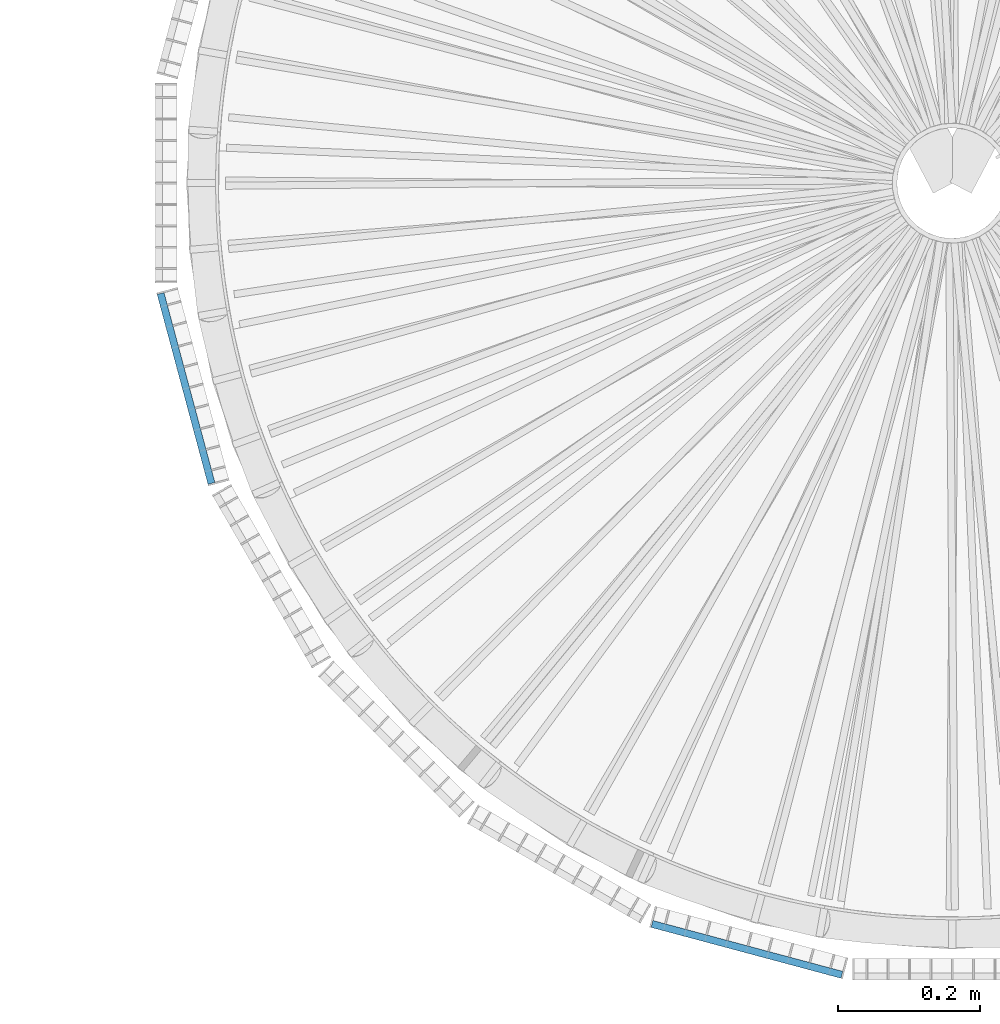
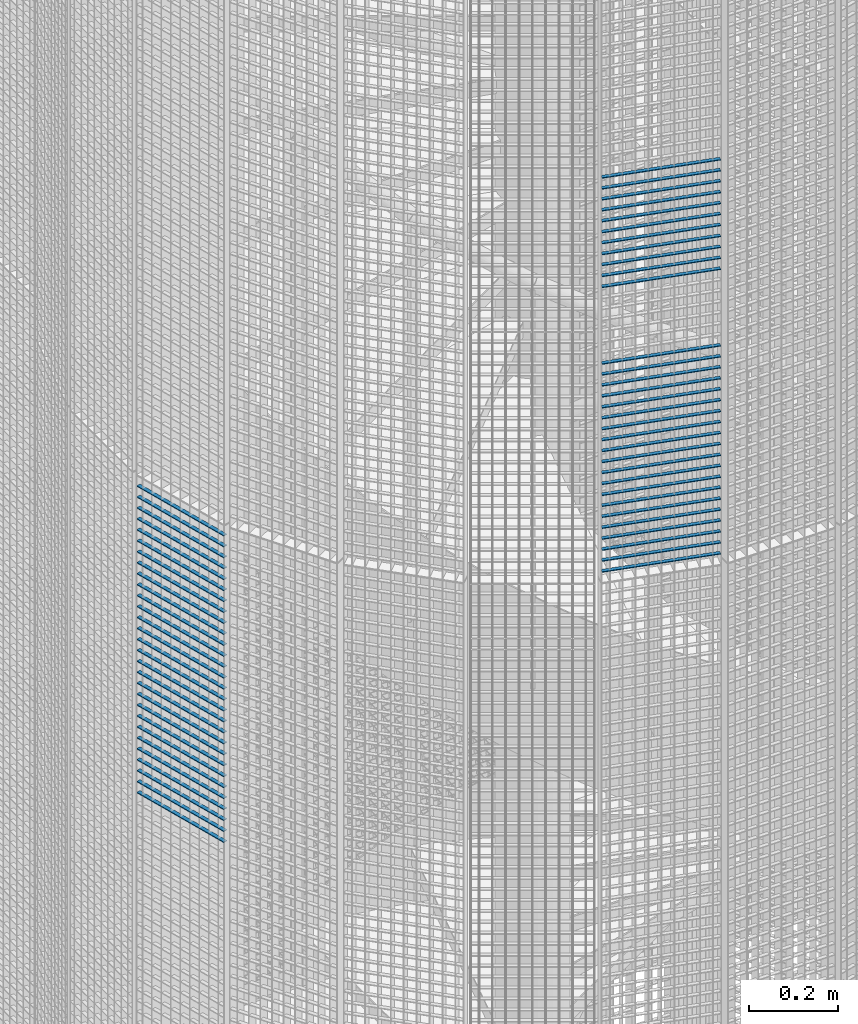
# One storey, part 348 of 1148: 60 beams, 2 elements without a shape of their own.
"""IFC2X3 building model written with IfcOpenShell, lengths in millimetres."""

import ifcopenshell
import ifcopenshell.guid

model = None  # the IFC model being written
_history = None  # IfcOwnerHistory: only IFC2X3 demands one
_inside = {}  # id of a spatial element -> (the spatial element, [elements in it])
_under = {}  # id of a project, library or spatial element -> (it, [spatial elements below it])
_declared = {}  # id of a project -> (the project, [libraries it declares])
_typed = {}  # id of a type object -> (the type object, [elements of that type])
_made_of = {}  # id of a material, layer set ... -> (it, [elements and type objects made of it])


def new_model(schema):
    """Start an empty IFC model of exactly this schema.

    Asked for "IFC4X3", IfcOpenShell would pick the latest addendum, in which some entities
    have other attributes; the version numbers below select the first issue.
    IFC2X3 requires an IfcOwnerHistory on every rooted entity: one is made here for all.
    """
    global model, _history
    if schema == "IFC4X3":
        model = ifcopenshell.file(schema_version=(4, 3, 0, 0))
    else:
        model = ifcopenshell.file(schema=schema)
    _inside.clear()
    _under.clear()
    _declared.clear()
    _typed.clear()
    _made_of.clear()
    _history = None
    if model.schema == "IFC2X3":
        org = make("IfcOrganization", Name="unknown")
        user = make(
            "IfcPersonAndOrganization",
            ThePerson=make("IfcPerson", FamilyName="unknown"),
            TheOrganization=org,
        )
        app = make(
            "IfcApplication",
            ApplicationDeveloper=org,
            Version="unknown",
            ApplicationFullName="unknown",
            ApplicationIdentifier="unknown",
        )
        _history = make(
            "IfcOwnerHistory",
            OwningUser=user,
            OwningApplication=app,
            ChangeAction="ADDED",
            CreationDate=0,
        )
    return model


def make(cls, **values):
    """One entity of the class cls with the attributes given. An attribute that is None is left unset."""
    return model.create_entity(
        cls, **{name: value for name, value in values.items() if value is not None}
    )


def rooted(cls, **values):
    """An entity with a GlobalId (a new one), such as an element, a storey or a relation."""
    return make(cls, GlobalId=ifcopenshell.guid.new(), OwnerHistory=_history, **values)


def si_unit(unit_type, name, prefix=None):
    """IfcSIUnit, for example si_unit("LENGTHUNIT", "METRE", prefix="MILLI")."""
    return make("IfcSIUnit", UnitType=unit_type, Prefix=prefix, Name=name)


def assignment(units):
    """IfcUnitAssignment: the units of a project."""
    return None if units is None else make("IfcUnitAssignment", Units=units)


def point(xyz):
    """IfcCartesianPoint."""
    return None if xyz is None else make("IfcCartesianPoint", Coordinates=xyz)


def direction(xyz):
    """IfcDirection."""
    return None if xyz is None else make("IfcDirection", DirectionRatios=xyz)


def frame(location, z_axis=None, x_axis=None):
    """IfcAxis2Placement3D, a coordinate frame: its origin and axes. An axis left out is left unset."""
    return make(
        "IfcAxis2Placement3D",
        Location=point(location),
        Axis=direction(z_axis),
        RefDirection=direction(x_axis),
    )


def frame_2d(location, x_axis=None):
    """IfcAxis2Placement2D, a coordinate frame in the plane: its origin and x axis."""
    return make(
        "IfcAxis2Placement2D", Location=point(location), RefDirection=direction(x_axis)
    )


def origin_with_axes():
    """The frame at (0, 0, 0) with the z axis (0, 0, 1) and the x axis (1, 0, 0) written out."""
    return frame((0.0, 0.0, 0.0), z_axis=(0.0, 0.0, 1.0), x_axis=(1.0, 0.0, 0.0))


def origin_2d_with_axis():
    """The frame at (0, 0) in the plane with the x axis (1, 0) written out."""
    return frame_2d((0.0, 0.0), x_axis=(1.0, 0.0))


def place(relative_to, where):
    """IfcLocalPlacement: puts the frame where relative to a parent placement (None: the world)."""
    return make(
        "IfcLocalPlacement", PlacementRelTo=relative_to, RelativePlacement=where
    )


def context(
    kind, dimensions, precision=None, world=None, true_north=None, identifier=None
):
    """IfcGeometricRepresentationContext, for example the 3D "Model" context."""
    return make(
        "IfcGeometricRepresentationContext",
        ContextIdentifier=identifier,
        ContextType=kind,
        CoordinateSpaceDimension=dimensions,
        Precision=precision,
        WorldCoordinateSystem=world,
        TrueNorth=true_north,
    )


def subcontext(parent, identifier, kind, view, scale=None):
    """IfcGeometricRepresentationSubContext, for example "Body" below "Model"."""
    return make(
        "IfcGeometricRepresentationSubContext",
        ContextIdentifier=identifier,
        ContextType=kind,
        ParentContext=parent,
        TargetScale=scale,
        TargetView=view,
    )


def project(units=None, contexts=None):
    """IfcProject with its units and contexts."""
    return rooted(
        "IfcProject",
        Name="project",
        RepresentationContexts=contexts,
        UnitsInContext=assignment(units),
    )


def spatial(cls, under=None, at=None, **own):
    """A site, building, storey or space (cls), placed at a placement, below another one or the project."""
    s = rooted(cls, ObjectPlacement=at, **own)
    if under is not None:
        _under.setdefault(under.id(), (under, []))[1].append(s)
    return s


def profile(cls, at=None, kind="AREA", **sizes):
    """A parametric profile (cls). Its sizes go by their IFC names, for example OverallWidth=200.0."""
    return make(cls, ProfileType=kind, Position=at, **sizes)


def rectangle(**sizes):
    """IfcRectangleProfileDef."""
    return profile("IfcRectangleProfileDef", **sizes)


def extrude(swept, where, along, depth):
    """IfcExtrudedAreaSolid: the profile swept, set in the frame where, extruded along a direction by depth."""
    return make(
        "IfcExtrudedAreaSolid",
        SweptArea=swept,
        Position=where,
        ExtrudedDirection=direction(along),
        Depth=depth,
    )


def shape(context_of_items, identifier, shape_type, items):
    """IfcShapeRepresentation: the items that make up one representation, for example the "Body"."""
    return make(
        "IfcShapeRepresentation",
        ContextOfItems=context_of_items,
        RepresentationIdentifier=identifier,
        RepresentationType=shape_type,
        Items=items,
    )


def material(Name=None, Category=None):
    """IfcMaterial."""
    return make("IfcMaterial", Name=Name, Category=Category)


def made_of(thing, what):
    """Note that an element or type object is made of a material, layer set ...; save() writes the relation."""
    if what is not None:
        _made_of.setdefault(what.id(), (what, []))[1].append(thing)
    return thing


def type_object(cls, material=None, **own):
    """A type object (cls), such as IfcWallType, which elements share."""
    return made_of(rooted(cls, **own), material)


def element(
    cls,
    number,
    at=None,
    inside=None,
    cuts=None,
    type_object=None,
    material=None,
    context=None,
    identifier="Body",
    shape_type=None,
    held_by="IfcProductDefinitionShape",
    body=None,
    shapes=None,
    **own,
):
    """One element of the class cls, such as IfcWall. Its Tag is "e" and its number.

    at: its placement. inside: the storey or other place that contains it. cuts: it is an
    opening in that element (IfcRelVoidsElement). A single representation is given by context,
    identifier, shape_type and body (its items); several are given by shapes. held_by: the class
    of the entity that holds the representations. save() writes the other relations.
    """
    e = rooted(cls, Tag="e%d" % number, ObjectPlacement=at, **own)
    if body is not None:
        shapes = [shape(context, identifier, shape_type, body)]
    if shapes is not None:
        e.Representation = make(held_by, Representations=shapes)
    if inside is not None:
        _inside.setdefault(inside.id(), (inside, []))[1].append(e)
    if cuts is not None:
        rooted(
            "IfcRelVoidsElement", RelatingBuildingElement=cuts, RelatedOpeningElement=e
        )
    if type_object is not None:
        _typed.setdefault(type_object.id(), (type_object, []))[1].append(e)
    return made_of(e, material)


def aggregate(whole, parts):
    """IfcRelAggregates: a whole, such as a stair, and the parts it consists of."""
    return rooted("IfcRelAggregates", RelatingObject=whole, RelatedObjects=parts)


def save(model, path):
    """Write the relations noted so far, then the file.

    IfcRelAggregates (storeys below a building ...), IfcRelContainedInSpatialStructure (elements
    in a storey), IfcRelDefinesByType, IfcRelAssociatesMaterial and IfcRelDeclares: one each for
    every whole, place, type object, material and project.
    """
    for whole, parts in _under.values():
        aggregate(whole, parts)
    for where, things in _inside.values():
        rooted(
            "IfcRelContainedInSpatialStructure",
            RelatedElements=things,
            RelatingStructure=where,
        )
    for kind, things in _typed.values():
        rooted("IfcRelDefinesByType", RelatedObjects=things, RelatingType=kind)
    for what, things in _made_of.values():
        rooted("IfcRelAssociatesMaterial", RelatedObjects=things, RelatingMaterial=what)
    for by, libraries in _declared.values():
        rooted("IfcRelDeclares", RelatingContext=by, RelatedDefinitions=libraries)
    model.write(path)


model = new_model("IFC2X3")

# Units and contexts
model_context = context("Model", 3, precision=1e-05, world=origin_with_axes())
body_context = subcontext(model_context, "Body", "Model", "MODEL_VIEW")
ifc_project = project(units=[si_unit("LENGTHUNIT", "METRE", prefix="MILLI"), si_unit("AREAUNIT", "SQUARE_METRE"), si_unit("VOLUMEUNIT", "CUBIC_METRE"), si_unit("MASSUNIT", "GRAM", prefix="KILO"), si_unit("TIMEUNIT", "SECOND"), si_unit("PLANEANGLEUNIT", "RADIAN"), si_unit("SOLIDANGLEUNIT", "STERADIAN"), si_unit("THERMODYNAMICTEMPERATUREUNIT", "DEGREE_CELSIUS"), si_unit("LUMINOUSINTENSITYUNIT", "LUMEN")], contexts=[model_context])

# Site, building, storey
site_placement = place(None, origin_with_axes())
site = spatial("IfcSite", under=ifc_project, at=site_placement, Name="Undefined", CompositionType="ELEMENT")
building_placement = place(site_placement, origin_with_axes())
building = spatial("IfcBuilding", under=site, at=building_placement, Name="Undefined", CompositionType="ELEMENT")
storey_placement = place(building_placement, origin_with_axes())
storey = spatial("IfcBuildingStorey", under=building, at=storey_placement, Name="Undefined", CompositionType="ELEMENT", Elevation=0.0)

# Assembly, beams
assembly_1_placement = place(storey_placement, origin_with_axes())
assembly_1 = element("IfcElementAssembly", 1, at=assembly_1_placement, inside=storey, Name="BORDURE", AssemblyPlace="NOTDEFINED", PredefinedType="NOTDEFINED")
ifc_material = material(Name="STEEL/S235JR")
beam_type = type_object("IfcBeamType", Name="PL2*10", PredefinedType="NOTDEFINED")
beam_1_placement = place(assembly_1_placement, frame((21445.1040732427, -1111.25508286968, 9600.0), z_axis=(-0.258819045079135, -0.965925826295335, 0.0), x_axis=(-0.965925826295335, 0.258819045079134, 0.0)))
beam_1 = element("IfcBeam", 2, at=beam_1_placement, type_object=beam_type, material=ifc_material, Name="ENTRETOISE", context=body_context, shape_type="SweptSolid", body=[
    extrude(rectangle(XDim=2.0, YDim=10.0, at=origin_2d_with_axis()), frame((275.999999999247, 9.09494701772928e-13, 1.53210777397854e-14), z_axis=(-1.0, 0.0, 0.0), x_axis=(0.0, -1.0, 0.0)), (0.0, 0.0, 1.0), 276.0),
])
beam_2_placement = place(assembly_1_placement, frame((21445.1040732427, -1111.25508286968, 9810.0), z_axis=(-0.258819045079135, -0.965925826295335, 0.0), x_axis=(-0.965925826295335, 0.258819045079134, 0.0)))
beam_2 = element("IfcBeam", 3, at=beam_2_placement, type_object=beam_type, material=ifc_material, Name="ENTRETOISE", context=body_context, shape_type="SweptSolid", body=[
    extrude(rectangle(XDim=2.0, YDim=10.0, at=origin_2d_with_axis()), frame((275.999999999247, 9.09494701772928e-13, 1.53210777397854e-14), z_axis=(-1.0, 0.0, 0.0), x_axis=(0.0, -1.0, 0.0)), (0.0, 0.0, 1.0), 276.0),
])
beam_3_placement = place(assembly_1_placement, frame((21445.1040732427, -1111.25508286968, 9570.0), z_axis=(-0.258819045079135, -0.965925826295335, 0.0), x_axis=(-0.965925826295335, 0.258819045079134, 0.0)))
beam_3 = element("IfcBeam", 4, at=beam_3_placement, type_object=beam_type, material=ifc_material, Name="ENTRETOISE", context=body_context, shape_type="SweptSolid", body=[
    extrude(rectangle(XDim=2.0, YDim=10.0, at=origin_2d_with_axis()), frame((275.999999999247, 9.09494701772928e-13, 1.53210777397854e-14), z_axis=(-1.0, 0.0, 0.0), x_axis=(0.0, -1.0, 0.0)), (0.0, 0.0, 1.0), 276.0),
])
beam_4_placement = place(assembly_1_placement, frame((21445.1040732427, -1111.25508286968, 9540.0), z_axis=(-0.258819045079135, -0.965925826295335, 0.0), x_axis=(-0.965925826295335, 0.258819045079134, 0.0)))
beam_4 = element("IfcBeam", 5, at=beam_4_placement, type_object=beam_type, material=ifc_material, Name="ENTRETOISE", context=body_context, shape_type="SweptSolid", body=[
    extrude(rectangle(XDim=2.0, YDim=10.0, at=origin_2d_with_axis()), frame((275.999999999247, 9.09494701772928e-13, 1.53210777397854e-14), z_axis=(-1.0, 0.0, 0.0), x_axis=(0.0, -1.0, 0.0)), (0.0, 0.0, 1.0), 276.0),
])
beam_5_placement = place(assembly_1_placement, frame((21445.1040732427, -1111.25508286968, 9840.0), z_axis=(-0.258819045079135, -0.965925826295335, 0.0), x_axis=(-0.965925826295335, 0.258819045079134, 0.0)))
beam_5 = element("IfcBeam", 6, at=beam_5_placement, type_object=beam_type, material=ifc_material, Name="ENTRETOISE", context=body_context, shape_type="SweptSolid", body=[
    extrude(rectangle(XDim=2.0, YDim=10.0, at=origin_2d_with_axis()), frame((275.999999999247, 9.09494701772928e-13, 1.53210777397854e-14), z_axis=(-1.0, 0.0, 0.0), x_axis=(0.0, -1.0, 0.0)), (0.0, 0.0, 1.0), 276.0),
])
beam_6_placement = place(assembly_1_placement, frame((21445.1040732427, -1111.25508286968, 9510.0), z_axis=(-0.258819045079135, -0.965925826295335, 0.0), x_axis=(-0.965925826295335, 0.258819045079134, 0.0)))
beam_6 = element("IfcBeam", 7, at=beam_6_placement, type_object=beam_type, material=ifc_material, Name="ENTRETOISE", context=body_context, shape_type="SweptSolid", body=[
    extrude(rectangle(XDim=2.0, YDim=10.0, at=origin_2d_with_axis()), frame((275.999999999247, 9.09494701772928e-13, 1.53210777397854e-14), z_axis=(-1.0, 0.0, 0.0), x_axis=(0.0, -1.0, 0.0)), (0.0, 0.0, 1.0), 276.0),
])
beam_7_placement = place(assembly_1_placement, frame((21445.1040732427, -1111.25508286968, 9480.0), z_axis=(-0.258819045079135, -0.965925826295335, 0.0), x_axis=(-0.965925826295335, 0.258819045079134, 0.0)))
beam_7 = element("IfcBeam", 8, at=beam_7_placement, type_object=beam_type, material=ifc_material, Name="ENTRETOISE", context=body_context, shape_type="SweptSolid", body=[
    extrude(rectangle(XDim=2.0, YDim=10.0, at=origin_2d_with_axis()), frame((275.999999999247, 9.09494701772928e-13, 1.53210777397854e-14), z_axis=(-1.0, 0.0, 0.0), x_axis=(0.0, -1.0, 0.0)), (0.0, 0.0, 1.0), 276.0),
])
beam_8_placement = place(assembly_1_placement, frame((21445.1040732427, -1111.25508286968, 9870.0), z_axis=(-0.258819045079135, -0.965925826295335, 0.0), x_axis=(-0.965925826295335, 0.258819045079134, 0.0)))
beam_8 = element("IfcBeam", 9, at=beam_8_placement, type_object=beam_type, material=ifc_material, Name="ENTRETOISE", context=body_context, shape_type="SweptSolid", body=[
    extrude(rectangle(XDim=2.0, YDim=10.0, at=origin_2d_with_axis()), frame((275.999999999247, 9.09494701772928e-13, 1.53210777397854e-14), z_axis=(-1.0, 0.0, 0.0), x_axis=(0.0, -1.0, 0.0)), (0.0, 0.0, 1.0), 276.0),
])
beam_9_placement = place(assembly_1_placement, frame((21445.1040732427, -1111.25508286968, 9450.0), z_axis=(-0.258819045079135, -0.965925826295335, 0.0), x_axis=(-0.965925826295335, 0.258819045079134, 0.0)))
beam_9 = element("IfcBeam", 10, at=beam_9_placement, type_object=beam_type, material=ifc_material, Name="ENTRETOISE", context=body_context, shape_type="SweptSolid", body=[
    extrude(rectangle(XDim=2.0, YDim=10.0, at=origin_2d_with_axis()), frame((275.999999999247, 9.09494701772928e-13, 1.53210777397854e-14), z_axis=(-1.0, 0.0, 0.0), x_axis=(0.0, -1.0, 0.0)), (0.0, 0.0, 1.0), 276.0),
])
beam_10_placement = place(assembly_1_placement, frame((21445.1040732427, -1111.25508286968, 9420.0), z_axis=(-0.258819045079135, -0.965925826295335, 0.0), x_axis=(-0.965925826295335, 0.258819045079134, 0.0)))
beam_10 = element("IfcBeam", 11, at=beam_10_placement, type_object=beam_type, material=ifc_material, Name="ENTRETOISE", context=body_context, shape_type="SweptSolid", body=[
    extrude(rectangle(XDim=2.0, YDim=10.0, at=origin_2d_with_axis()), frame((275.999999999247, 9.09494701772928e-13, 1.53210777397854e-14), z_axis=(-1.0, 0.0, 0.0), x_axis=(0.0, -1.0, 0.0)), (0.0, 0.0, 1.0), 276.0),
])
beam_11_placement = place(assembly_1_placement, frame((21445.1040732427, -1111.25508286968, 9900.0), z_axis=(-0.258819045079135, -0.965925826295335, 0.0), x_axis=(-0.965925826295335, 0.258819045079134, 0.0)))
beam_11 = element("IfcBeam", 12, at=beam_11_placement, type_object=beam_type, material=ifc_material, Name="ENTRETOISE", context=body_context, shape_type="SweptSolid", body=[
    extrude(rectangle(XDim=2.0, YDim=10.0, at=origin_2d_with_axis()), frame((275.999999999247, 9.09494701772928e-13, 1.53210777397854e-14), z_axis=(-1.0, 0.0, 0.0), x_axis=(0.0, -1.0, 0.0)), (0.0, 0.0, 1.0), 276.0),
])
beam_12_placement = place(assembly_1_placement, frame((21445.1040732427, -1111.25508286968, 9390.0), z_axis=(-0.258819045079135, -0.965925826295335, 0.0), x_axis=(-0.965925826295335, 0.258819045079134, 0.0)))
beam_12 = element("IfcBeam", 13, at=beam_12_placement, type_object=beam_type, material=ifc_material, Name="ENTRETOISE", context=body_context, shape_type="SweptSolid", body=[
    extrude(rectangle(XDim=2.0, YDim=10.0, at=origin_2d_with_axis()), frame((275.999999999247, 9.09494701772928e-13, 1.53210777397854e-14), z_axis=(-1.0, 0.0, 0.0), x_axis=(0.0, -1.0, 0.0)), (0.0, 0.0, 1.0), 276.0),
])
beam_13_placement = place(assembly_1_placement, frame((21445.1040732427, -1111.25508286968, 9930.0), z_axis=(-0.258819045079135, -0.965925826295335, 0.0), x_axis=(-0.965925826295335, 0.258819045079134, 0.0)))
beam_13 = element("IfcBeam", 14, at=beam_13_placement, type_object=beam_type, material=ifc_material, Name="ENTRETOISE", context=body_context, shape_type="SweptSolid", body=[
    extrude(rectangle(XDim=2.0, YDim=10.0, at=origin_2d_with_axis()), frame((275.999999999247, 9.09494701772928e-13, 1.53210777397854e-14), z_axis=(-1.0, 0.0, 0.0), x_axis=(0.0, -1.0, 0.0)), (0.0, 0.0, 1.0), 276.0),
])
beam_14_placement = place(assembly_1_placement, frame((21445.1040732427, -1111.25508286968, 9360.0), z_axis=(-0.258819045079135, -0.965925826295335, 0.0), x_axis=(-0.965925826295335, 0.258819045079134, 0.0)))
beam_14 = element("IfcBeam", 15, at=beam_14_placement, type_object=beam_type, material=ifc_material, Name="ENTRETOISE", context=body_context, shape_type="SweptSolid", body=[
    extrude(rectangle(XDim=2.0, YDim=10.0, at=origin_2d_with_axis()), frame((275.999999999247, 9.09494701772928e-13, 1.53210777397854e-14), z_axis=(-1.0, 0.0, 0.0), x_axis=(0.0, -1.0, 0.0)), (0.0, 0.0, 1.0), 276.0),
])
beam_15_placement = place(assembly_1_placement, frame((21445.1040732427, -1111.25508286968, 9330.0), z_axis=(-0.258819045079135, -0.965925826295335, 0.0), x_axis=(-0.965925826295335, 0.258819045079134, 0.0)))
beam_15 = element("IfcBeam", 16, at=beam_15_placement, type_object=beam_type, material=ifc_material, Name="ENTRETOISE", context=body_context, shape_type="SweptSolid", body=[
    extrude(rectangle(XDim=2.0, YDim=10.0, at=origin_2d_with_axis()), frame((275.999999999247, 9.09494701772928e-13, 1.53210777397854e-14), z_axis=(-1.0, 0.0, 0.0), x_axis=(0.0, -1.0, 0.0)), (0.0, 0.0, 1.0), 276.0),
])
beam_16_placement = place(assembly_1_placement, frame((21445.1040732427, -1111.25508286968, 9960.0), z_axis=(-0.258819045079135, -0.965925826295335, 0.0), x_axis=(-0.965925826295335, 0.258819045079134, 0.0)))
beam_16 = element("IfcBeam", 17, at=beam_16_placement, type_object=beam_type, material=ifc_material, Name="ENTRETOISE", context=body_context, shape_type="SweptSolid", body=[
    extrude(rectangle(XDim=2.0, YDim=10.0, at=origin_2d_with_axis()), frame((275.999999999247, 9.09494701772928e-13, 1.53210777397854e-14), z_axis=(-1.0, 0.0, 0.0), x_axis=(0.0, -1.0, 0.0)), (0.0, 0.0, 1.0), 276.0),
])
beam_17_placement = place(assembly_1_placement, frame((21445.1040732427, -1111.25508286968, 9300.0), z_axis=(-0.258819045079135, -0.965925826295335, 0.0), x_axis=(-0.965925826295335, 0.258819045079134, 0.0)))
beam_17 = element("IfcBeam", 18, at=beam_17_placement, type_object=beam_type, material=ifc_material, Name="ENTRETOISE", context=body_context, shape_type="SweptSolid", body=[
    extrude(rectangle(XDim=2.0, YDim=10.0, at=origin_2d_with_axis()), frame((275.999999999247, 9.09494701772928e-13, 1.53210777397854e-14), z_axis=(-1.0, 0.0, 0.0), x_axis=(0.0, -1.0, 0.0)), (0.0, 0.0, 1.0), 276.0),
])
beam_18_placement = place(assembly_1_placement, frame((21445.1040732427, -1111.25508286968, 9270.0), z_axis=(-0.258819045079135, -0.965925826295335, 0.0), x_axis=(-0.965925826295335, 0.258819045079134, 0.0)))
beam_18 = element("IfcBeam", 19, at=beam_18_placement, type_object=beam_type, material=ifc_material, Name="ENTRETOISE", context=body_context, shape_type="SweptSolid", body=[
    extrude(rectangle(XDim=2.0, YDim=10.0, at=origin_2d_with_axis()), frame((275.999999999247, 9.09494701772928e-13, 1.53210777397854e-14), z_axis=(-1.0, 0.0, 0.0), x_axis=(0.0, -1.0, 0.0)), (0.0, 0.0, 1.0), 276.0),
])
beam_19_placement = place(assembly_1_placement, frame((21445.1040732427, -1111.25508286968, 9990.0), z_axis=(-0.258819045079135, -0.965925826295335, 0.0), x_axis=(-0.965925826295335, 0.258819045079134, 0.0)))
beam_19 = element("IfcBeam", 20, at=beam_19_placement, type_object=beam_type, material=ifc_material, Name="ENTRETOISE", context=body_context, shape_type="SweptSolid", body=[
    extrude(rectangle(XDim=2.0, YDim=10.0, at=origin_2d_with_axis()), frame((275.999999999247, 9.09494701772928e-13, 1.53210777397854e-14), z_axis=(-1.0, 0.0, 0.0), x_axis=(0.0, -1.0, 0.0)), (0.0, 0.0, 1.0), 276.0),
])
beam_20_placement = place(assembly_1_placement, frame((21445.1040732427, -1111.25508286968, 9240.0), z_axis=(-0.258819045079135, -0.965925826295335, 0.0), x_axis=(-0.965925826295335, 0.258819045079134, 0.0)))
beam_20 = element("IfcBeam", 21, at=beam_20_placement, type_object=beam_type, material=ifc_material, Name="ENTRETOISE", context=body_context, shape_type="SweptSolid", body=[
    extrude(rectangle(XDim=2.0, YDim=10.0, at=origin_2d_with_axis()), frame((275.999999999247, 9.09494701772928e-13, 1.53210777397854e-14), z_axis=(-1.0, 0.0, 0.0), x_axis=(0.0, -1.0, 0.0)), (0.0, 0.0, 1.0), 276.0),
])
beam_21_placement = place(assembly_1_placement, frame((21445.1040732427, -1111.25508286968, 10020.0), z_axis=(-0.258819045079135, -0.965925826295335, 0.0), x_axis=(-0.965925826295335, 0.258819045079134, 0.0)))
beam_21 = element("IfcBeam", 22, at=beam_21_placement, type_object=beam_type, material=ifc_material, Name="ENTRETOISE", context=body_context, shape_type="SweptSolid", body=[
    extrude(rectangle(XDim=2.0, YDim=10.0, at=origin_2d_with_axis()), frame((275.999999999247, 9.09494701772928e-13, 1.53210777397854e-14), z_axis=(-1.0, 0.0, 0.0), x_axis=(0.0, -1.0, 0.0)), (0.0, 0.0, 1.0), 276.0),
])
beam_22_placement = place(assembly_1_placement, frame((21445.1040732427, -1111.25508286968, 9210.0), z_axis=(-0.258819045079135, -0.965925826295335, 0.0), x_axis=(-0.965925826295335, 0.258819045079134, 0.0)))
beam_22 = element("IfcBeam", 23, at=beam_22_placement, type_object=beam_type, material=ifc_material, Name="ENTRETOISE", context=body_context, shape_type="SweptSolid", body=[
    extrude(rectangle(XDim=2.0, YDim=10.0, at=origin_2d_with_axis()), frame((275.999999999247, 9.09494701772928e-13, 1.53210777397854e-14), z_axis=(-1.0, 0.0, 0.0), x_axis=(0.0, -1.0, 0.0)), (0.0, 0.0, 1.0), 276.0),
])
beam_23_placement = place(assembly_1_placement, frame((21445.1040732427, -1111.25508286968, 9180.0), z_axis=(-0.258819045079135, -0.965925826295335, 0.0), x_axis=(-0.965925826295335, 0.258819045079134, 0.0)))
beam_23 = element("IfcBeam", 24, at=beam_23_placement, type_object=beam_type, material=ifc_material, Name="ENTRETOISE", context=body_context, shape_type="SweptSolid", body=[
    extrude(rectangle(XDim=2.0, YDim=10.0, at=origin_2d_with_axis()), frame((275.999999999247, 9.09494701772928e-13, 1.53210777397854e-14), z_axis=(-1.0, 0.0, 0.0), x_axis=(0.0, -1.0, 0.0)), (0.0, 0.0, 1.0), 276.0),
])
beam_24_placement = place(assembly_1_placement, frame((21445.1040732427, -1111.25508286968, 10050.0), z_axis=(-0.258819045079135, -0.965925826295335, 0.0), x_axis=(-0.965925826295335, 0.258819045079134, 0.0)))
beam_24 = element("IfcBeam", 25, at=beam_24_placement, type_object=beam_type, material=ifc_material, Name="ENTRETOISE", context=body_context, shape_type="SweptSolid", body=[
    extrude(rectangle(XDim=2.0, YDim=10.0, at=origin_2d_with_axis()), frame((275.999999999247, 9.09494701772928e-13, 1.53210777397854e-14), z_axis=(-1.0, 0.0, 0.0), x_axis=(0.0, -1.0, 0.0)), (0.0, 0.0, 1.0), 276.0),
])
beam_25_placement = place(assembly_1_placement, frame((21445.1040732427, -1111.25508286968, 9150.0), z_axis=(-0.258819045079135, -0.965925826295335, 0.0), x_axis=(-0.965925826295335, 0.258819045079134, 0.0)))
beam_25 = element("IfcBeam", 26, at=beam_25_placement, type_object=beam_type, material=ifc_material, Name="ENTRETOISE", context=body_context, shape_type="SweptSolid", body=[
    extrude(rectangle(XDim=2.0, YDim=10.0, at=origin_2d_with_axis()), frame((275.999999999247, 9.09494701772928e-13, 1.53210777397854e-14), z_axis=(-1.0, 0.0, 0.0), x_axis=(0.0, -1.0, 0.0)), (0.0, 0.0, 1.0), 276.0),
])
beam_26_placement = place(assembly_1_placement, frame((21445.1040732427, -1111.25508286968, 9120.0), z_axis=(-0.258819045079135, -0.965925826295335, 0.0), x_axis=(-0.965925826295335, 0.258819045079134, 0.0)))
beam_26 = element("IfcBeam", 27, at=beam_26_placement, type_object=beam_type, material=ifc_material, Name="ENTRETOISE", context=body_context, shape_type="SweptSolid", body=[
    extrude(rectangle(XDim=2.0, YDim=10.0, at=origin_2d_with_axis()), frame((275.999999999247, 9.09494701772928e-13, 1.53210777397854e-14), z_axis=(-1.0, 0.0, 0.0), x_axis=(0.0, -1.0, 0.0)), (0.0, 0.0, 1.0), 276.0),
])
beam_27_placement = place(assembly_1_placement, frame((21445.1040732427, -1111.25508286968, 10080.0), z_axis=(-0.258819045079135, -0.965925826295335, 0.0), x_axis=(-0.965925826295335, 0.258819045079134, 0.0)))
beam_27 = element("IfcBeam", 28, at=beam_27_placement, type_object=beam_type, material=ifc_material, Name="ENTRETOISE", context=body_context, shape_type="SweptSolid", body=[
    extrude(rectangle(XDim=2.0, YDim=10.0, at=origin_2d_with_axis()), frame((275.999999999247, 9.09494701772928e-13, 1.53210777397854e-14), z_axis=(-1.0, 0.0, 0.0), x_axis=(0.0, -1.0, 0.0)), (0.0, 0.0, 1.0), 276.0),
])
beam_28_placement = place(assembly_1_placement, frame((21445.1040732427, -1111.25508286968, 9090.0), z_axis=(-0.258819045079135, -0.965925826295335, 0.0), x_axis=(-0.965925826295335, 0.258819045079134, 0.0)))
beam_28 = element("IfcBeam", 29, at=beam_28_placement, type_object=beam_type, material=ifc_material, Name="ENTRETOISE", context=body_context, shape_type="SweptSolid", body=[
    extrude(rectangle(XDim=2.0, YDim=10.0, at=origin_2d_with_axis()), frame((275.999999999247, 9.09494701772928e-13, 1.53210777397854e-14), z_axis=(-1.0, 0.0, 0.0), x_axis=(0.0, -1.0, 0.0)), (0.0, 0.0, 1.0), 276.0),
])
beam_29_placement = place(assembly_1_placement, frame((21445.1040732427, -1111.25508286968, 9060.0), z_axis=(-0.258819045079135, -0.965925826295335, 0.0), x_axis=(-0.965925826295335, 0.258819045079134, 0.0)))
beam_29 = element("IfcBeam", 30, at=beam_29_placement, type_object=beam_type, material=ifc_material, Name="ENTRETOISE", context=body_context, shape_type="SweptSolid", body=[
    extrude(rectangle(XDim=2.0, YDim=10.0, at=origin_2d_with_axis()), frame((275.999999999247, 9.09494701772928e-13, 1.53210777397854e-14), z_axis=(-1.0, 0.0, 0.0), x_axis=(0.0, -1.0, 0.0)), (0.0, 0.0, 1.0), 276.0),
])
beam_30_placement = place(assembly_1_placement, frame((21445.1040732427, -1111.25508286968, 10110.0), z_axis=(-0.258819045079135, -0.965925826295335, 0.0), x_axis=(-0.965925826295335, 0.258819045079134, 0.0)))
beam_30 = element("IfcBeam", 31, at=beam_30_placement, type_object=beam_type, material=ifc_material, Name="ENTRETOISE", context=body_context, shape_type="SweptSolid", body=[
    extrude(rectangle(XDim=2.0, YDim=10.0, at=origin_2d_with_axis()), frame((275.999999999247, 9.09494701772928e-13, 1.53210777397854e-14), z_axis=(-1.0, 0.0, 0.0), x_axis=(0.0, -1.0, 0.0)), (0.0, 0.0, 1.0), 276.0),
])
beam_31_placement = place(assembly_1_placement, frame((21445.1040732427, -1111.25508286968, 9030.0), z_axis=(-0.258819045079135, -0.965925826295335, 0.0), x_axis=(-0.965925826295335, 0.258819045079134, 0.0)))
beam_31 = element("IfcBeam", 32, at=beam_31_placement, type_object=beam_type, material=ifc_material, Name="ENTRETOISE", context=body_context, shape_type="SweptSolid", body=[
    extrude(rectangle(XDim=2.0, YDim=10.0, at=origin_2d_with_axis()), frame((275.999999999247, 9.09494701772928e-13, 1.53210777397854e-14), z_axis=(-1.0, 0.0, 0.0), x_axis=(0.0, -1.0, 0.0)), (0.0, 0.0, 1.0), 276.0),
])
aggregate(assembly_1, [beam_1, beam_2, beam_3, beam_4, beam_5, beam_6, beam_7, beam_8, beam_9, beam_10, beam_11, beam_12, beam_13, beam_14, beam_15, beam_16, beam_17, beam_18, beam_19, beam_20, beam_21, beam_22, beam_23, beam_24, beam_25, beam_26, beam_27, beam_28, beam_29, beam_30, beam_31])

assembly_2_placement = place(storey_placement, origin_with_axes())
assembly_2 = element("IfcElementAssembly", 33, at=assembly_2_placement, inside=storey, Name="BORDURE", AssemblyPlace="NOTDEFINED", PredefinedType="NOTDEFINED")
beam_32_placement = place(assembly_2_placement, frame((20560.1769047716, -421.483733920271, 8970.0), z_axis=(-0.965925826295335, -0.258819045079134, 0.0), x_axis=(-0.258819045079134, 0.965925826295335, 0.0)))
beam_32 = element("IfcBeam", 34, at=beam_32_placement, type_object=beam_type, material=ifc_material, Name="ENTRETOISE", context=body_context, shape_type="SweptSolid", body=[
    extrude(rectangle(XDim=2.0, YDim=10.0, at=origin_2d_with_axis()), frame((275.999999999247, 9.09494701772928e-13, 1.53210777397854e-14), z_axis=(-1.0, 0.0, 0.0), x_axis=(0.0, -1.0, 0.0)), (0.0, 0.0, 1.0), 276.0),
])
beam_33_placement = place(assembly_2_placement, frame((20560.1769047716, -421.483733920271, 8940.0), z_axis=(-0.965925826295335, -0.258819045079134, 0.0), x_axis=(-0.258819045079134, 0.965925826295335, 0.0)))
beam_33 = element("IfcBeam", 35, at=beam_33_placement, type_object=beam_type, material=ifc_material, Name="ENTRETOISE", context=body_context, shape_type="SweptSolid", body=[
    extrude(rectangle(XDim=2.0, YDim=10.0, at=origin_2d_with_axis()), frame((275.999999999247, 9.09494701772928e-13, 1.53210777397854e-14), z_axis=(-1.0, 0.0, 0.0), x_axis=(0.0, -1.0, 0.0)), (0.0, 0.0, 1.0), 276.0),
])
beam_34_placement = place(assembly_2_placement, frame((20560.1769047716, -421.483733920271, 8910.0), z_axis=(-0.965925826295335, -0.258819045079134, 0.0), x_axis=(-0.258819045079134, 0.965925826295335, 0.0)))
beam_34 = element("IfcBeam", 36, at=beam_34_placement, type_object=beam_type, material=ifc_material, Name="ENTRETOISE", context=body_context, shape_type="SweptSolid", body=[
    extrude(rectangle(XDim=2.0, YDim=10.0, at=origin_2d_with_axis()), frame((275.999999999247, 9.09494701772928e-13, 1.53210777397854e-14), z_axis=(-1.0, 0.0, 0.0), x_axis=(0.0, -1.0, 0.0)), (0.0, 0.0, 1.0), 276.0),
])
beam_35_placement = place(assembly_2_placement, frame((20560.1769047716, -421.483733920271, 8880.0), z_axis=(-0.965925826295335, -0.258819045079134, 0.0), x_axis=(-0.258819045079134, 0.965925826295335, 0.0)))
beam_35 = element("IfcBeam", 37, at=beam_35_placement, type_object=beam_type, material=ifc_material, Name="ENTRETOISE", context=body_context, shape_type="SweptSolid", body=[
    extrude(rectangle(XDim=2.0, YDim=10.0, at=origin_2d_with_axis()), frame((275.999999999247, 9.09494701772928e-13, 1.53210777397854e-14), z_axis=(-1.0, 0.0, 0.0), x_axis=(0.0, -1.0, 0.0)), (0.0, 0.0, 1.0), 276.0),
])
beam_36_placement = place(assembly_2_placement, frame((20560.1769047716, -421.483733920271, 8850.0), z_axis=(-0.965925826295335, -0.258819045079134, 0.0), x_axis=(-0.258819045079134, 0.965925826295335, 0.0)))
beam_36 = element("IfcBeam", 38, at=beam_36_placement, type_object=beam_type, material=ifc_material, Name="ENTRETOISE", context=body_context, shape_type="SweptSolid", body=[
    extrude(rectangle(XDim=2.0, YDim=10.0, at=origin_2d_with_axis()), frame((275.999999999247, 9.09494701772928e-13, 1.53210777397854e-14), z_axis=(-1.0, 0.0, 0.0), x_axis=(0.0, -1.0, 0.0)), (0.0, 0.0, 1.0), 276.0),
])
beam_37_placement = place(assembly_2_placement, frame((20560.1769047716, -421.483733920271, 8820.0), z_axis=(-0.965925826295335, -0.258819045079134, 0.0), x_axis=(-0.258819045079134, 0.965925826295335, 0.0)))
beam_37 = element("IfcBeam", 39, at=beam_37_placement, type_object=beam_type, material=ifc_material, Name="ENTRETOISE", context=body_context, shape_type="SweptSolid", body=[
    extrude(rectangle(XDim=2.0, YDim=10.0, at=origin_2d_with_axis()), frame((275.999999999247, 9.09494701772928e-13, 1.53210777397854e-14), z_axis=(-1.0, 0.0, 0.0), x_axis=(0.0, -1.0, 0.0)), (0.0, 0.0, 1.0), 276.0),
])
beam_38_placement = place(assembly_2_placement, frame((20560.1769047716, -421.483733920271, 8790.0), z_axis=(-0.965925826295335, -0.258819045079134, 0.0), x_axis=(-0.258819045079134, 0.965925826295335, 0.0)))
beam_38 = element("IfcBeam", 40, at=beam_38_placement, type_object=beam_type, material=ifc_material, Name="ENTRETOISE", context=body_context, shape_type="SweptSolid", body=[
    extrude(rectangle(XDim=2.0, YDim=10.0, at=origin_2d_with_axis()), frame((275.999999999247, 9.09494701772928e-13, 1.53210777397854e-14), z_axis=(-1.0, 0.0, 0.0), x_axis=(0.0, -1.0, 0.0)), (0.0, 0.0, 1.0), 276.0),
])
beam_39_placement = place(assembly_2_placement, frame((20560.1769047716, -421.483733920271, 8760.0), z_axis=(-0.965925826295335, -0.258819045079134, 0.0), x_axis=(-0.258819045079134, 0.965925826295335, 0.0)))
beam_39 = element("IfcBeam", 41, at=beam_39_placement, type_object=beam_type, material=ifc_material, Name="ENTRETOISE", context=body_context, shape_type="SweptSolid", body=[
    extrude(rectangle(XDim=2.0, YDim=10.0, at=origin_2d_with_axis()), frame((275.999999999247, 9.09494701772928e-13, 1.53210777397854e-14), z_axis=(-1.0, 0.0, 0.0), x_axis=(0.0, -1.0, 0.0)), (0.0, 0.0, 1.0), 276.0),
])
beam_40_placement = place(assembly_2_placement, frame((20560.1769047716, -421.48373392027, 8730.0), z_axis=(-0.965925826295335, -0.258819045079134, 0.0), x_axis=(-0.258819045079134, 0.965925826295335, 0.0)))
beam_40 = element("IfcBeam", 42, at=beam_40_placement, type_object=beam_type, material=ifc_material, Name="ENTRETOISE", context=body_context, shape_type="SweptSolid", body=[
    extrude(rectangle(XDim=2.0, YDim=10.0, at=origin_2d_with_axis()), frame((275.999999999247, 9.09494701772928e-13, 1.53210777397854e-14), z_axis=(-1.0, 0.0, 0.0), x_axis=(0.0, -1.0, 0.0)), (0.0, 0.0, 1.0), 276.0),
])
beam_41_placement = place(assembly_2_placement, frame((20560.1769047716, -421.48373392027, 8700.0), z_axis=(-0.965925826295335, -0.258819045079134, 0.0), x_axis=(-0.258819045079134, 0.965925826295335, 0.0)))
beam_41 = element("IfcBeam", 43, at=beam_41_placement, type_object=beam_type, material=ifc_material, Name="ENTRETOISE", context=body_context, shape_type="SweptSolid", body=[
    extrude(rectangle(XDim=2.0, YDim=10.0, at=origin_2d_with_axis()), frame((275.999999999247, 9.09494701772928e-13, 1.53210777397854e-14), z_axis=(-1.0, 0.0, 0.0), x_axis=(0.0, -1.0, 0.0)), (0.0, 0.0, 1.0), 276.0),
])
beam_42_placement = place(assembly_2_placement, frame((20560.1769047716, -421.48373392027, 8670.0), z_axis=(-0.965925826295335, -0.258819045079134, 0.0), x_axis=(-0.258819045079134, 0.965925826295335, 0.0)))
beam_42 = element("IfcBeam", 44, at=beam_42_placement, type_object=beam_type, material=ifc_material, Name="ENTRETOISE", context=body_context, shape_type="SweptSolid", body=[
    extrude(rectangle(XDim=2.0, YDim=10.0, at=origin_2d_with_axis()), frame((275.999999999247, 9.09494701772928e-13, 1.53210777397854e-14), z_axis=(-1.0, 0.0, 0.0), x_axis=(0.0, -1.0, 0.0)), (0.0, 0.0, 1.0), 276.0),
])
beam_43_placement = place(assembly_2_placement, frame((20560.1769047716, -421.48373392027, 8640.0), z_axis=(-0.965925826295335, -0.258819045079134, 0.0), x_axis=(-0.258819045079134, 0.965925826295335, 0.0)))
beam_43 = element("IfcBeam", 45, at=beam_43_placement, type_object=beam_type, material=ifc_material, Name="ENTRETOISE", context=body_context, shape_type="SweptSolid", body=[
    extrude(rectangle(XDim=2.0, YDim=10.0, at=origin_2d_with_axis()), frame((275.999999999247, 9.09494701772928e-13, 1.53210777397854e-14), z_axis=(-1.0, 0.0, 0.0), x_axis=(0.0, -1.0, 0.0)), (0.0, 0.0, 1.0), 276.0),
])
beam_44_placement = place(assembly_2_placement, frame((20560.1769047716, -421.48373392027, 8610.0), z_axis=(-0.965925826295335, -0.258819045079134, 0.0), x_axis=(-0.258819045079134, 0.965925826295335, 0.0)))
beam_44 = element("IfcBeam", 46, at=beam_44_placement, type_object=beam_type, material=ifc_material, Name="ENTRETOISE", context=body_context, shape_type="SweptSolid", body=[
    extrude(rectangle(XDim=2.0, YDim=10.0, at=origin_2d_with_axis()), frame((275.999999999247, 9.09494701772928e-13, 1.53210777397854e-14), z_axis=(-1.0, 0.0, 0.0), x_axis=(0.0, -1.0, 0.0)), (0.0, 0.0, 1.0), 276.0),
])
beam_45_placement = place(assembly_2_placement, frame((20560.1769047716, -421.48373392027, 8580.0), z_axis=(-0.965925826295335, -0.258819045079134, 0.0), x_axis=(-0.258819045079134, 0.965925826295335, 0.0)))
beam_45 = element("IfcBeam", 47, at=beam_45_placement, type_object=beam_type, material=ifc_material, Name="ENTRETOISE", context=body_context, shape_type="SweptSolid", body=[
    extrude(rectangle(XDim=2.0, YDim=10.0, at=origin_2d_with_axis()), frame((275.999999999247, 9.09494701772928e-13, 1.53210777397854e-14), z_axis=(-1.0, 0.0, 0.0), x_axis=(0.0, -1.0, 0.0)), (0.0, 0.0, 1.0), 276.0),
])
beam_46_placement = place(assembly_2_placement, frame((20560.1769047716, -421.48373392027, 8550.0), z_axis=(-0.965925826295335, -0.258819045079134, 0.0), x_axis=(-0.258819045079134, 0.965925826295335, 0.0)))
beam_46 = element("IfcBeam", 48, at=beam_46_placement, type_object=beam_type, material=ifc_material, Name="ENTRETOISE", context=body_context, shape_type="SweptSolid", body=[
    extrude(rectangle(XDim=2.0, YDim=10.0, at=origin_2d_with_axis()), frame((275.999999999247, 9.09494701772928e-13, 1.53210777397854e-14), z_axis=(-1.0, 0.0, 0.0), x_axis=(0.0, -1.0, 0.0)), (0.0, 0.0, 1.0), 276.0),
])
beam_47_placement = place(assembly_2_placement, frame((20560.1769047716, -421.48373392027, 8520.0), z_axis=(-0.965925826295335, -0.258819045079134, 0.0), x_axis=(-0.258819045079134, 0.965925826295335, 0.0)))
beam_47 = element("IfcBeam", 49, at=beam_47_placement, type_object=beam_type, material=ifc_material, Name="ENTRETOISE", context=body_context, shape_type="SweptSolid", body=[
    extrude(rectangle(XDim=2.0, YDim=10.0, at=origin_2d_with_axis()), frame((275.999999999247, 9.09494701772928e-13, 1.53210777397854e-14), z_axis=(-1.0, 0.0, 0.0), x_axis=(0.0, -1.0, 0.0)), (0.0, 0.0, 1.0), 276.0),
])
beam_48_placement = place(assembly_2_placement, frame((20560.1769047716, -421.48373392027, 8490.0), z_axis=(-0.965925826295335, -0.258819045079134, 0.0), x_axis=(-0.258819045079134, 0.965925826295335, 0.0)))
beam_48 = element("IfcBeam", 50, at=beam_48_placement, type_object=beam_type, material=ifc_material, Name="ENTRETOISE", context=body_context, shape_type="SweptSolid", body=[
    extrude(rectangle(XDim=2.0, YDim=10.0, at=origin_2d_with_axis()), frame((275.999999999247, 9.09494701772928e-13, 1.53210777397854e-14), z_axis=(-1.0, 0.0, 0.0), x_axis=(0.0, -1.0, 0.0)), (0.0, 0.0, 1.0), 276.0),
])
beam_49_placement = place(assembly_2_placement, frame((20560.1769047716, -421.483733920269, 8460.0), z_axis=(-0.965925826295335, -0.258819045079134, 0.0), x_axis=(-0.258819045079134, 0.965925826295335, 0.0)))
beam_49 = element("IfcBeam", 51, at=beam_49_placement, type_object=beam_type, material=ifc_material, Name="ENTRETOISE", context=body_context, shape_type="SweptSolid", body=[
    extrude(rectangle(XDim=2.0, YDim=10.0, at=origin_2d_with_axis()), frame((275.999999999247, 9.09494701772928e-13, 1.53210777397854e-14), z_axis=(-1.0, 0.0, 0.0), x_axis=(0.0, -1.0, 0.0)), (0.0, 0.0, 1.0), 276.0),
])
beam_50_placement = place(assembly_2_placement, frame((20560.1769047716, -421.483733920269, 8430.0), z_axis=(-0.965925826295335, -0.258819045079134, 0.0), x_axis=(-0.258819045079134, 0.965925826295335, 0.0)))
beam_50 = element("IfcBeam", 52, at=beam_50_placement, type_object=beam_type, material=ifc_material, Name="ENTRETOISE", context=body_context, shape_type="SweptSolid", body=[
    extrude(rectangle(XDim=2.0, YDim=10.0, at=origin_2d_with_axis()), frame((275.999999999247, 9.09494701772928e-13, 1.53210777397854e-14), z_axis=(-1.0, 0.0, 0.0), x_axis=(0.0, -1.0, 0.0)), (0.0, 0.0, 1.0), 276.0),
])
beam_51_placement = place(assembly_2_placement, frame((20560.1769047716, -421.483733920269, 8400.0), z_axis=(-0.965925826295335, -0.258819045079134, 0.0), x_axis=(-0.258819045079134, 0.965925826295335, 0.0)))
beam_51 = element("IfcBeam", 53, at=beam_51_placement, type_object=beam_type, material=ifc_material, Name="ENTRETOISE", context=body_context, shape_type="SweptSolid", body=[
    extrude(rectangle(XDim=2.0, YDim=10.0, at=origin_2d_with_axis()), frame((275.999999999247, 9.09494701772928e-13, 1.53210777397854e-14), z_axis=(-1.0, 0.0, 0.0), x_axis=(0.0, -1.0, 0.0)), (0.0, 0.0, 1.0), 276.0),
])
beam_52_placement = place(assembly_2_placement, frame((20560.1769047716, -421.483733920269, 8370.0), z_axis=(-0.965925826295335, -0.258819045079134, 0.0), x_axis=(-0.258819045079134, 0.965925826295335, 0.0)))
beam_52 = element("IfcBeam", 54, at=beam_52_placement, type_object=beam_type, material=ifc_material, Name="ENTRETOISE", context=body_context, shape_type="SweptSolid", body=[
    extrude(rectangle(XDim=2.0, YDim=10.0, at=origin_2d_with_axis()), frame((275.999999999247, 9.09494701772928e-13, 1.53210777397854e-14), z_axis=(-1.0, 0.0, 0.0), x_axis=(0.0, -1.0, 0.0)), (0.0, 0.0, 1.0), 276.0),
])
beam_53_placement = place(assembly_2_placement, frame((20560.1769047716, -421.483733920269, 8340.0), z_axis=(-0.965925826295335, -0.258819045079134, 0.0), x_axis=(-0.258819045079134, 0.965925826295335, 0.0)))
beam_53 = element("IfcBeam", 55, at=beam_53_placement, type_object=beam_type, material=ifc_material, Name="ENTRETOISE", context=body_context, shape_type="SweptSolid", body=[
    extrude(rectangle(XDim=2.0, YDim=10.0, at=origin_2d_with_axis()), frame((275.999999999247, 9.09494701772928e-13, 1.53210777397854e-14), z_axis=(-1.0, 0.0, 0.0), x_axis=(0.0, -1.0, 0.0)), (0.0, 0.0, 1.0), 276.0),
])
beam_54_placement = place(assembly_2_placement, frame((20560.1769047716, -421.483733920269, 8310.0), z_axis=(-0.965925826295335, -0.258819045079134, 0.0), x_axis=(-0.258819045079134, 0.965925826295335, 0.0)))
beam_54 = element("IfcBeam", 56, at=beam_54_placement, type_object=beam_type, material=ifc_material, Name="ENTRETOISE", context=body_context, shape_type="SweptSolid", body=[
    extrude(rectangle(XDim=2.0, YDim=10.0, at=origin_2d_with_axis()), frame((275.999999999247, 9.09494701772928e-13, 1.53210777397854e-14), z_axis=(-1.0, 0.0, 0.0), x_axis=(0.0, -1.0, 0.0)), (0.0, 0.0, 1.0), 276.0),
])
beam_55_placement = place(assembly_2_placement, frame((20560.1769047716, -421.483733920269, 8280.0), z_axis=(-0.965925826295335, -0.258819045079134, 0.0), x_axis=(-0.258819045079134, 0.965925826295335, 0.0)))
beam_55 = element("IfcBeam", 57, at=beam_55_placement, type_object=beam_type, material=ifc_material, Name="ENTRETOISE", context=body_context, shape_type="SweptSolid", body=[
    extrude(rectangle(XDim=2.0, YDim=10.0, at=origin_2d_with_axis()), frame((275.999999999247, 9.09494701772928e-13, 1.53210777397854e-14), z_axis=(-1.0, 0.0, 0.0), x_axis=(0.0, -1.0, 0.0)), (0.0, 0.0, 1.0), 276.0),
])
beam_56_placement = place(assembly_2_placement, frame((20560.1769047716, -421.483733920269, 8250.0), z_axis=(-0.965925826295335, -0.258819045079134, 0.0), x_axis=(-0.258819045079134, 0.965925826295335, 0.0)))
beam_56 = element("IfcBeam", 58, at=beam_56_placement, type_object=beam_type, material=ifc_material, Name="ENTRETOISE", context=body_context, shape_type="SweptSolid", body=[
    extrude(rectangle(XDim=2.0, YDim=10.0, at=origin_2d_with_axis()), frame((275.999999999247, 9.09494701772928e-13, 1.53210777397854e-14), z_axis=(-1.0, 0.0, 0.0), x_axis=(0.0, -1.0, 0.0)), (0.0, 0.0, 1.0), 276.0),
])
beam_57_placement = place(assembly_2_placement, frame((20560.1769047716, -421.483733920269, 8220.0), z_axis=(-0.965925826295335, -0.258819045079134, 0.0), x_axis=(-0.258819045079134, 0.965925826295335, 0.0)))
beam_57 = element("IfcBeam", 59, at=beam_57_placement, type_object=beam_type, material=ifc_material, Name="ENTRETOISE", context=body_context, shape_type="SweptSolid", body=[
    extrude(rectangle(XDim=2.0, YDim=10.0, at=origin_2d_with_axis()), frame((275.999999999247, 9.09494701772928e-13, 1.53210777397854e-14), z_axis=(-1.0, 0.0, 0.0), x_axis=(0.0, -1.0, 0.0)), (0.0, 0.0, 1.0), 276.0),
])
beam_58_placement = place(assembly_2_placement, frame((20560.1769047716, -421.483733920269, 8190.0), z_axis=(-0.965925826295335, -0.258819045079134, 0.0), x_axis=(-0.258819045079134, 0.965925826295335, 0.0)))
beam_58 = element("IfcBeam", 60, at=beam_58_placement, type_object=beam_type, material=ifc_material, Name="ENTRETOISE", context=body_context, shape_type="SweptSolid", body=[
    extrude(rectangle(XDim=2.0, YDim=10.0, at=origin_2d_with_axis()), frame((275.999999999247, 9.09494701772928e-13, 1.53210777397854e-14), z_axis=(-1.0, 0.0, 0.0), x_axis=(0.0, -1.0, 0.0)), (0.0, 0.0, 1.0), 276.0),
])
beam_59_placement = place(assembly_2_placement, frame((20560.1769047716, -421.483733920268, 8160.0), z_axis=(-0.965925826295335, -0.258819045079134, 0.0), x_axis=(-0.258819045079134, 0.965925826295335, 0.0)))
beam_59 = element("IfcBeam", 61, at=beam_59_placement, type_object=beam_type, material=ifc_material, Name="ENTRETOISE", context=body_context, shape_type="SweptSolid", body=[
    extrude(rectangle(XDim=2.0, YDim=10.0, at=origin_2d_with_axis()), frame((275.999999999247, 9.09494701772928e-13, 1.53210777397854e-14), z_axis=(-1.0, 0.0, 0.0), x_axis=(0.0, -1.0, 0.0)), (0.0, 0.0, 1.0), 276.0),
])
beam_60_placement = place(assembly_2_placement, frame((20560.1769047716, -421.483733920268, 8130.0), z_axis=(-0.965925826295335, -0.258819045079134, 0.0), x_axis=(-0.258819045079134, 0.965925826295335, 0.0)))
beam_60 = element("IfcBeam", 62, at=beam_60_placement, type_object=beam_type, material=ifc_material, Name="ENTRETOISE", context=body_context, shape_type="SweptSolid", body=[
    extrude(rectangle(XDim=2.0, YDim=10.0, at=origin_2d_with_axis()), frame((275.999999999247, 9.09494701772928e-13, 1.53210777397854e-14), z_axis=(-1.0, 0.0, 0.0), x_axis=(0.0, -1.0, 0.0)), (0.0, 0.0, 1.0), 276.0),
])
aggregate(assembly_2, [beam_32, beam_33, beam_34, beam_35, beam_36, beam_37, beam_38, beam_39, beam_40, beam_41, beam_42, beam_43, beam_44, beam_45, beam_46, beam_47, beam_48, beam_49, beam_50, beam_51, beam_52, beam_53, beam_54, beam_55, beam_56, beam_57, beam_58, beam_59, beam_60])

save(model, "model.ifc")
